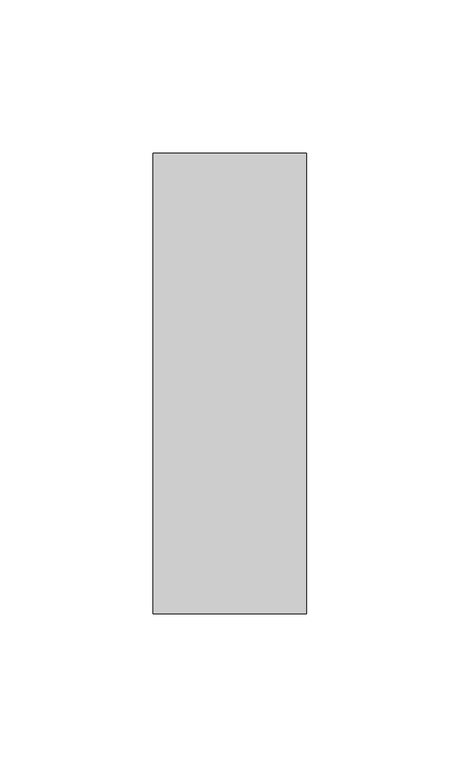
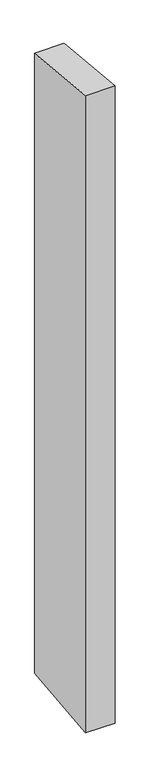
"""IFC4 building model written with IfcOpenShell, lengths in millimetres: member geometry, Прямоугольный импост : 50 x 150 мм."""

from ifc_helpers import new_model, si_unit, origin, place, context, project, spatial, faceted_brep, source, transform, mapped, element, save


def member_def8caf2(model_context):
    return source(origin(), model_context, "Body", "Brep", [
        faceted_brep([(-25.0, 75.0, -7.8910025), (25.0, 75.0, -7.4336835), (25.0, 75.0, -1122.2699816), (-25.0, 75.0, -1121.9598663), (-25.0, -75.0, 7.4336835), (-25.0, -75.0, -1138.2883774), (25.0, -75.0, 7.8910025), (25.0, -75.0, -1138.5984927)], [[[0, 1, 2, 3]], [[4, 0, 3, 5]], [[6, 4, 5, 7]], [[1, 6, 7, 2]], [[1, 0, 4, 6]], [[2, 7, 5, 3]]]),
    ])


if __name__ == "__main__":
    model = new_model("IFC4")
    model_context = context("Model", 3, world=origin())
    ifc_project = project(units=[si_unit("LENGTHUNIT", "METRE", prefix="MILLI")], contexts=[model_context])
    site = spatial("IfcSite", under=ifc_project)
    building = spatial("IfcBuilding", under=site)
    placement = place(None, origin())
    member_shape = member_def8caf2(model_context)
    element("IfcMember", 1, ObjectType="Прямоугольный импост : 50 x 150 мм", at=placement, inside=building, context=model_context, shape_type="MappedRepresentation", body=[
        mapped(member_shape, transform((0.0, 0.0, 0.0), x_axis=(1.0, 0.0, 0.0), y_axis=(0.0, 1.0, 0.0), z_axis=(0.0, 0.0, 1.0))),
    ])
    save(model, "model.ifc")
